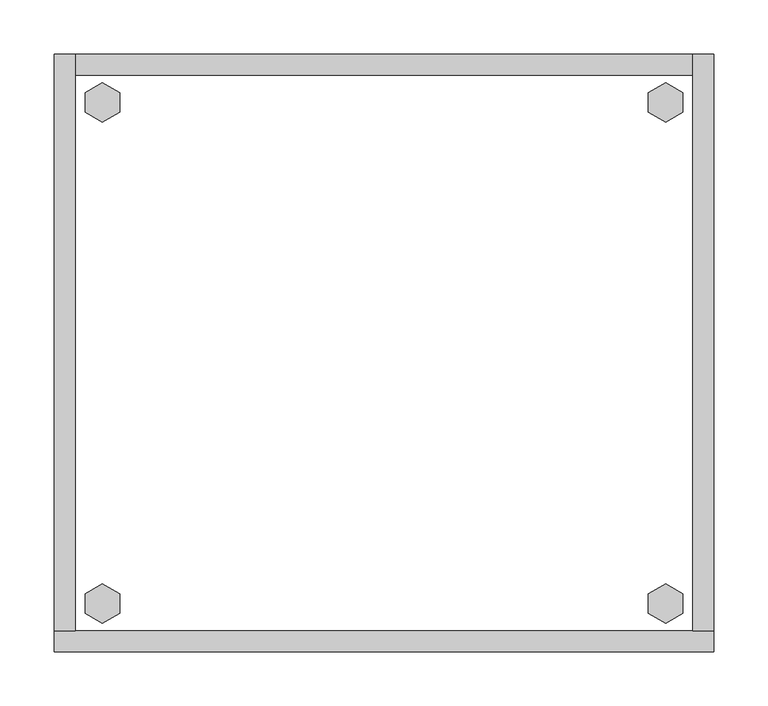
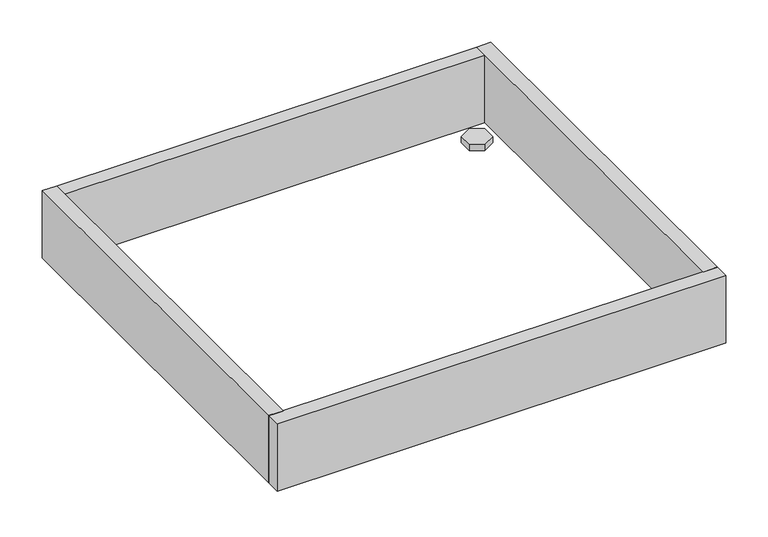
"""IFC4 building model written with IfcOpenShell, lengths in millimetres: furniture geometry, HermanMiller_Mora_CH250_PlinthBaseFinished : Flush on Both/Inline HPL 24D 24W."""

from ifc_helpers import new_model, si_unit, frame, origin, origin_with_axes, place, context, project, spatial, polyline, outline, extrude, source, transform, mapped, element, save


def furniture_40b373b2(model_context):
    return source(origin(), model_context, "Body", "SweptSolid", [
        extrude(outline(polyline([(548.9735422, -498.8179), (564.9214, -489.6104), (580.8692578, -498.8179), (580.8692578, -517.2329), (564.9214, -526.4404), (548.9735422, -517.2329), (548.9735422, -498.8179)])), origin_with_axes(), (0.0, 0.0, 1.0), 9.144),
        extrude(outline(polyline([(548.9735422, -35.4711), (564.9214, -26.2636), (580.8692578, -35.4711), (580.8692578, -53.8861), (564.9214, -63.0936), (548.9735422, -53.8861), (548.9735422, -35.4711)])), origin_with_axes(), (0.0, 0.0, 1.0), 9.144),
        extrude(outline(polyline([(28.7307422, -498.8179), (44.6786, -489.6104), (60.6264578, -498.8179), (60.6264578, -517.2329), (44.6786, -526.4404), (28.7307422, -517.2329), (28.7307422, -498.8179)])), origin_with_axes(), (0.0, 0.0, 1.0), 9.144),
        extrude(outline(polyline([(28.7307422, -35.4711), (44.6786, -26.2636), (60.6264578, -35.4711), (60.6264578, -53.8861), (44.6786, -63.0936), (28.7307422, -53.8861), (28.7307422, -35.4711)])), origin_with_axes(), (0.0, 0.0, 1.0), 9.144),
        extrude(outline(polyline([(19.304, 0.0), (19.304, -533.4), (0.0, -533.4), (0.0, 0.0), (19.304, 0.0)])), frame((0.0, 0.0, 4.699), z_axis=(0.0, 0.0, 1.0), x_axis=(1.0, 0.0, 0.0)), (0.0, 0.0, 1.0), 96.901),
        extrude(outline(polyline([(609.6, 0.0), (609.6, -533.4), (590.296, -533.4), (590.296, 0.0), (609.6, 0.0)])), frame((0.0, 0.0, 4.699), z_axis=(0.0, 0.0, 1.0), x_axis=(1.0, 0.0, 0.0)), (0.0, 0.0, 1.0), 96.901),
        extrude(outline(polyline([(590.296, -19.304), (19.304, -19.304), (19.304, 0.0), (590.296, 0.0), (590.296, -19.304)])), frame((0.0, 0.0, 4.699), z_axis=(0.0, 0.0, 1.0), x_axis=(1.0, 0.0, 0.0)), (0.0, 0.0, 1.0), 96.901),
        extrude(outline(polyline([(609.6, -533.4), (609.6, -552.704), (0.0, -552.704), (0.0, -533.4), (609.6, -533.4)])), frame((0.0, 0.0, 4.699), z_axis=(0.0, 0.0, 1.0), x_axis=(1.0, 0.0, 0.0)), (0.0, 0.0, 1.0), 96.901),
    ])


if __name__ == "__main__":
    model = new_model("IFC4")
    model_context = context("Model", 3, world=origin())
    ifc_project = project(units=[si_unit("LENGTHUNIT", "METRE", prefix="MILLI")], contexts=[model_context])
    site = spatial("IfcSite", under=ifc_project)
    building = spatial("IfcBuilding", under=site)
    placement = place(None, origin())
    furniture_shape = furniture_40b373b2(model_context)
    element("IfcFurniture", 1, ObjectType="HermanMiller_Mora_CH250_PlinthBaseFinished : Flush on Both/Inline HPL 24D 24W", at=placement, inside=building, context=model_context, shape_type="MappedRepresentation", body=[
        mapped(furniture_shape, transform((0.0, 0.0, 0.0), x_axis=(1.0, 0.0, 0.0), y_axis=(0.0, 1.0, 0.0), z_axis=(0.0, 0.0, 1.0))),
    ])
    save(model, "model.ifc")
